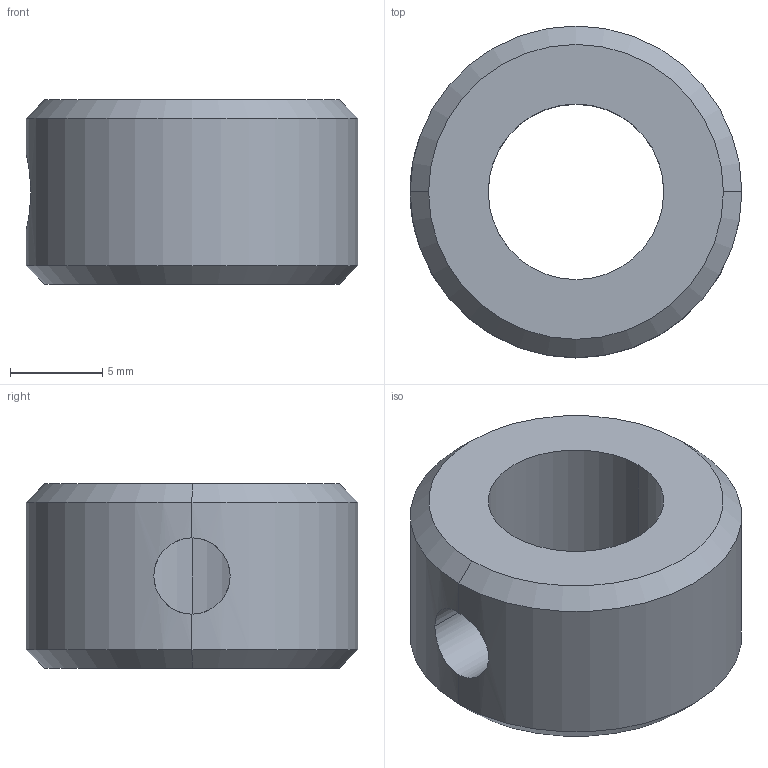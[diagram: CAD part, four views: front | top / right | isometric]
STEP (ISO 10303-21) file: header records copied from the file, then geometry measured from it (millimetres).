
FILE_DESCRIPTION(('CATIA V5 STEP Exchange','CAx-IF Rec.Pracs.--- Model Styling and Organization---1.4--- 2014-01-23','CAx-IF Rec.Pracs.---3D Tessellated Data Validation Properties---0.5---2014-09-14'),'2;1');
FILE_NAME('D:\GrabCAD\I+D\SERIE_LEXA\EKOT-1360-170921A-LEXA_WAIST_SUPPORT\FAB\FAB_C\PDF\MAQUINADO\1360.000.011.000.BUJE_AJUSTE.stp','2024-11-01T00:02:15+00:00',('none'),('none'),'CATIA Version 5-6 Release 2018 SP6','CATIA V5 STEP AP242','none');
FILE_SCHEMA(('AP242_MANAGED_MODEL_BASED_3D_ENGINEERING_MIM_LF {1 0 10303 442 1 1 4}'));
Length unit declared in the file: millimetre
Products named in the file (1): 1360.000.011.000.BUJE_AJUSTE
Bounding box: 18 x 18 x 10 mm (x, y, z)
Volume: 1720.1 mm3; surface area: 1191.5 mm2
Topology: 1 solids, 1 shells, 12 faces, 32 edges, 20 vertices
Faces by surface type: cylinder 6, cone 4, plane 2
Entity records: 420 total; most frequent: CARTESIAN_POINT 102, ORIENTED_EDGE 64, DIRECTION 42, EDGE_CURVE 32, AXIS2_PLACEMENT_3D 22, VERTEX_POINT 20, EDGE_LOOP 14, VECTOR 12
